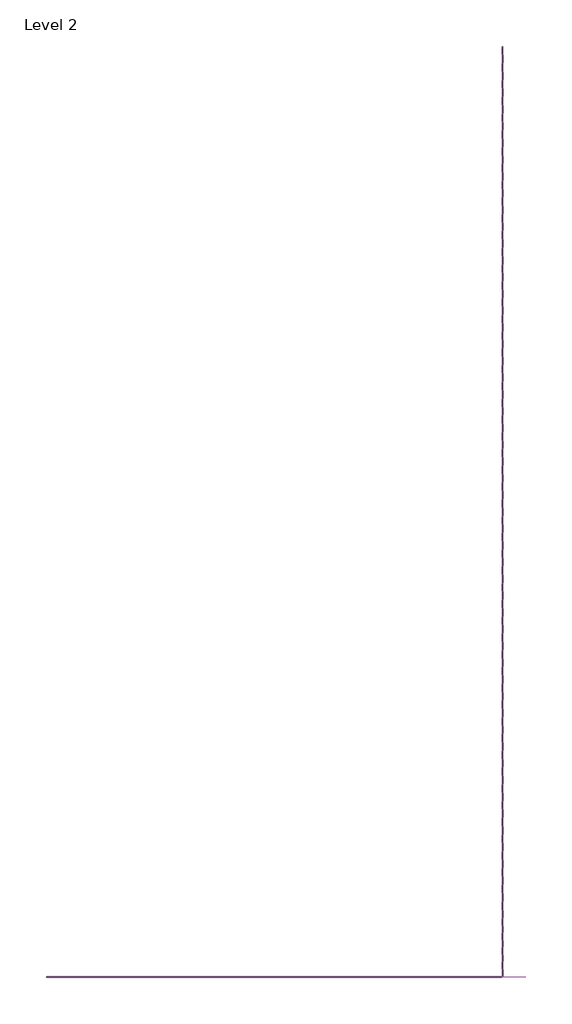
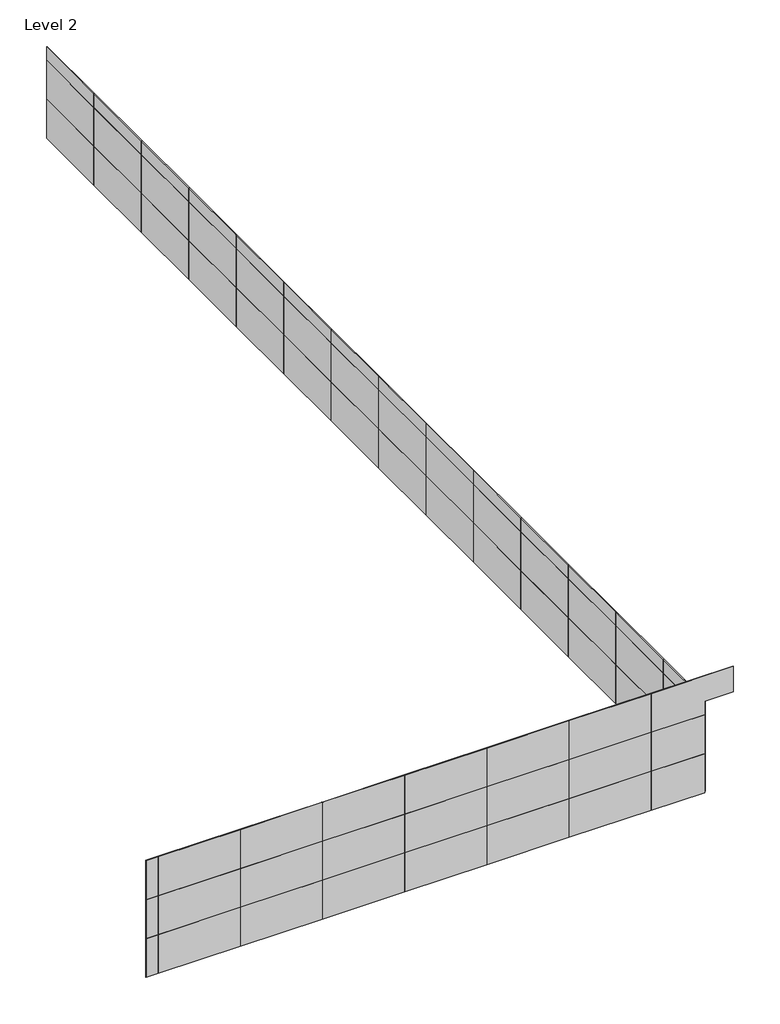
# One storey: 66 plates.
"""IFC4 building model written with IfcOpenShell, lengths in millimetres."""

import ifcopenshell
import ifcopenshell.guid

model = None  # the IFC model being written
_history = None  # IfcOwnerHistory: only IFC2X3 demands one
_inside = {}  # id of a spatial element -> (the spatial element, [elements in it])
_under = {}  # id of a project, library or spatial element -> (it, [spatial elements below it])
_declared = {}  # id of a project -> (the project, [libraries it declares])
_typed = {}  # id of a type object -> (the type object, [elements of that type])
_made_of = {}  # id of a material, layer set ... -> (it, [elements and type objects made of it])


def new_model(schema):
    """Start an empty IFC model of exactly this schema.

    Asked for "IFC4X3", IfcOpenShell would pick the latest addendum, in which some entities
    have other attributes; the version numbers below select the first issue.
    IFC2X3 requires an IfcOwnerHistory on every rooted entity: one is made here for all.
    """
    global model, _history
    if schema == "IFC4X3":
        model = ifcopenshell.file(schema_version=(4, 3, 0, 0))
    else:
        model = ifcopenshell.file(schema=schema)
    _inside.clear()
    _under.clear()
    _declared.clear()
    _typed.clear()
    _made_of.clear()
    _history = None
    if model.schema == "IFC2X3":
        org = make("IfcOrganization", Name="unknown")
        user = make(
            "IfcPersonAndOrganization",
            ThePerson=make("IfcPerson", FamilyName="unknown"),
            TheOrganization=org,
        )
        app = make(
            "IfcApplication",
            ApplicationDeveloper=org,
            Version="unknown",
            ApplicationFullName="unknown",
            ApplicationIdentifier="unknown",
        )
        _history = make(
            "IfcOwnerHistory",
            OwningUser=user,
            OwningApplication=app,
            ChangeAction="ADDED",
            CreationDate=0,
        )
    return model


def make(cls, **values):
    """One entity of the class cls with the attributes given. An attribute that is None is left unset."""
    return model.create_entity(
        cls, **{name: value for name, value in values.items() if value is not None}
    )


def rooted(cls, **values):
    """An entity with a GlobalId (a new one), such as an element, a storey or a relation."""
    return make(cls, GlobalId=ifcopenshell.guid.new(), OwnerHistory=_history, **values)


def si_unit(unit_type, name, prefix=None):
    """IfcSIUnit, for example si_unit("LENGTHUNIT", "METRE", prefix="MILLI")."""
    return make("IfcSIUnit", UnitType=unit_type, Prefix=prefix, Name=name)


def assignment(units):
    """IfcUnitAssignment: the units of a project."""
    return None if units is None else make("IfcUnitAssignment", Units=units)


def point(xyz):
    """IfcCartesianPoint."""
    return None if xyz is None else make("IfcCartesianPoint", Coordinates=xyz)


def direction(xyz):
    """IfcDirection."""
    return None if xyz is None else make("IfcDirection", DirectionRatios=xyz)


def frame(location, z_axis=None, x_axis=None):
    """IfcAxis2Placement3D, a coordinate frame: its origin and axes. An axis left out is left unset."""
    return make(
        "IfcAxis2Placement3D",
        Location=point(location),
        Axis=direction(z_axis),
        RefDirection=direction(x_axis),
    )


def origin():
    """The frame at (0, 0, 0) with its axes left unset."""
    return frame((0.0, 0.0, 0.0))


def origin_with_axes():
    """The frame at (0, 0, 0) with the z axis (0, 0, 1) and the x axis (1, 0, 0) written out."""
    return frame((0.0, 0.0, 0.0), z_axis=(0.0, 0.0, 1.0), x_axis=(1.0, 0.0, 0.0))


def place(relative_to, where):
    """IfcLocalPlacement: puts the frame where relative to a parent placement (None: the world)."""
    return make(
        "IfcLocalPlacement", PlacementRelTo=relative_to, RelativePlacement=where
    )


def context(
    kind, dimensions, precision=None, world=None, true_north=None, identifier=None
):
    """IfcGeometricRepresentationContext, for example the 3D "Model" context."""
    return make(
        "IfcGeometricRepresentationContext",
        ContextIdentifier=identifier,
        ContextType=kind,
        CoordinateSpaceDimension=dimensions,
        Precision=precision,
        WorldCoordinateSystem=world,
        TrueNorth=true_north,
    )


def project(units=None, contexts=None):
    """IfcProject with its units and contexts."""
    return rooted(
        "IfcProject",
        Name="project",
        RepresentationContexts=contexts,
        UnitsInContext=assignment(units),
    )


def spatial(cls, under=None, at=None, **own):
    """A site, building, storey or space (cls), placed at a placement, below another one or the project."""
    s = rooted(cls, ObjectPlacement=at, **own)
    if under is not None:
        _under.setdefault(under.id(), (under, []))[1].append(s)
    return s


def polyline(points):
    """IfcPolyline through the points."""
    return make("IfcPolyline", Points=[point(p) for p in points])


def outline(outer, holes=None, kind="AREA"):
    """IfcArbitraryClosedProfileDef: a profile drawn as a closed curve; with holes, ...WithVoids."""
    if holes is None:
        return make("IfcArbitraryClosedProfileDef", ProfileType=kind, OuterCurve=outer)
    return make(
        "IfcArbitraryProfileDefWithVoids",
        ProfileType=kind,
        OuterCurve=outer,
        InnerCurves=holes,
    )


def extrude(swept, where, along, depth):
    """IfcExtrudedAreaSolid: the profile swept, set in the frame where, extruded along a direction by depth."""
    return make(
        "IfcExtrudedAreaSolid",
        SweptArea=swept,
        Position=where,
        ExtrudedDirection=direction(along),
        Depth=depth,
    )


def shape(context_of_items, identifier, shape_type, items):
    """IfcShapeRepresentation: the items that make up one representation, for example the "Body"."""
    return make(
        "IfcShapeRepresentation",
        ContextOfItems=context_of_items,
        RepresentationIdentifier=identifier,
        RepresentationType=shape_type,
        Items=items,
    )


def source(mapping_origin, context_of_items, identifier, shape_type, items):
    """IfcRepresentationMap: a shape defined once, which mapped items show again and again."""
    return make(
        "IfcRepresentationMap",
        MappingOrigin=mapping_origin,
        MappedRepresentation=shape(context_of_items, identifier, shape_type, items),
    )


def transform(
    local_origin,
    x_axis=None,
    y_axis=None,
    z_axis=None,
    scale=None,
    scale2=None,
    scale3=None,
    uniform=True,
):
    """IfcCartesianTransformationOperator3D, or its non-uniform kind. x_axis, y_axis, z_axis: its Axis1, 2, 3."""
    if uniform:
        return make(
            "IfcCartesianTransformationOperator3D",
            Axis1=direction(x_axis),
            Axis2=direction(y_axis),
            LocalOrigin=point(local_origin),
            Scale=scale,
            Axis3=direction(z_axis),
        )
    return make(
        "IfcCartesianTransformationOperator3DnonUniform",
        Axis1=direction(x_axis),
        Axis2=direction(y_axis),
        LocalOrigin=point(local_origin),
        Scale=scale,
        Axis3=direction(z_axis),
        Scale2=scale2,
        Scale3=scale3,
    )


def mapped(mapping_source, mapping_target):
    """IfcMappedItem: shows the shape of a source again, moved by a transform."""
    return make(
        "IfcMappedItem", MappingSource=mapping_source, MappingTarget=mapping_target
    )


def made_of(thing, what):
    """Note that an element or type object is made of a material, layer set ...; save() writes the relation."""
    if what is not None:
        _made_of.setdefault(what.id(), (what, []))[1].append(thing)
    return thing


def element(
    cls,
    number,
    at=None,
    inside=None,
    cuts=None,
    type_object=None,
    material=None,
    context=None,
    identifier="Body",
    shape_type=None,
    held_by="IfcProductDefinitionShape",
    body=None,
    shapes=None,
    **own,
):
    """One element of the class cls, such as IfcWall. Its Tag is "e" and its number.

    at: its placement. inside: the storey or other place that contains it. cuts: it is an
    opening in that element (IfcRelVoidsElement). A single representation is given by context,
    identifier, shape_type and body (its items); several are given by shapes. held_by: the class
    of the entity that holds the representations. save() writes the other relations.
    """
    e = rooted(cls, Tag="e%d" % number, ObjectPlacement=at, **own)
    if body is not None:
        shapes = [shape(context, identifier, shape_type, body)]
    if shapes is not None:
        e.Representation = make(held_by, Representations=shapes)
    if inside is not None:
        _inside.setdefault(inside.id(), (inside, []))[1].append(e)
    if cuts is not None:
        rooted(
            "IfcRelVoidsElement", RelatingBuildingElement=cuts, RelatedOpeningElement=e
        )
    if type_object is not None:
        _typed.setdefault(type_object.id(), (type_object, []))[1].append(e)
    return made_of(e, material)


def aggregate(whole, parts):
    """IfcRelAggregates: a whole, such as a stair, and the parts it consists of."""
    return rooted("IfcRelAggregates", RelatingObject=whole, RelatedObjects=parts)


def save(model, path):
    """Write the relations noted so far, then the file.

    IfcRelAggregates (storeys below a building ...), IfcRelContainedInSpatialStructure (elements
    in a storey), IfcRelDefinesByType, IfcRelAssociatesMaterial and IfcRelDeclares: one each for
    every whole, place, type object, material and project.
    """
    for whole, parts in _under.values():
        aggregate(whole, parts)
    for where, things in _inside.values():
        rooted(
            "IfcRelContainedInSpatialStructure",
            RelatedElements=things,
            RelatingStructure=where,
        )
    for kind, things in _typed.values():
        rooted("IfcRelDefinesByType", RelatedObjects=things, RelatingType=kind)
    for what, things in _made_of.values():
        rooted("IfcRelAssociatesMaterial", RelatedObjects=things, RelatingMaterial=what)
    for by, libraries in _declared.values():
        rooted("IfcRelDeclares", RelatingContext=by, RelatedDefinitions=libraries)
    model.write(path)


def system_panel_glazed_81988b3c(model_context):
    return source(origin(), model_context, "Body", "SweptSolid", [
        extrude(outline(polyline([(990.6, 19.05), (-990.6, 19.05), (-990.6, 44.45), (990.6, 44.45), (990.6, 19.05)])), origin_with_axes(), (0.0, 0.0, 1.0), 1524.0),
    ])


def system_panel_glazed_0faff7bc(model_context):
    return source(origin(), model_context, "Body", "SweptSolid", [
        extrude(outline(polyline([(1524.0, 19.05), (-1524.0, 19.05), (-1524.0, 44.45), (1524.0, 44.45), (1524.0, 19.05)])), origin_with_axes(), (0.0, 0.0, 1.0), 1524.0),
    ])


def system_panel_glazed_3beef6a9(model_context):
    return source(origin(), model_context, "Body", "SweptSolid", [
        extrude(outline(polyline([(222.6119514, 19.05), (-222.6119514, 19.05), (-222.6119514, 44.45), (222.6119514, 44.45), (222.6119514, 19.05)])), origin_with_axes(), (0.0, 0.0, 1.0), 1524.0),
    ])


def system_panel_glazed_c471499d(model_context):
    return source(origin(), model_context, "Body", "SweptSolid", [
        extrude(outline(polyline([(0.0, -457.2), (0.0, 1524.0), (1524.0, 1524.0), (1524.0, -1524.0), (533.0898546, -1524.0), (533.0898546, -457.2), (0.0, -457.2)])), frame((0.0, 19.05, 0.0), z_axis=(0.0, 1.0, 0.0), x_axis=(0.0, 0.0, 1.0)), (0.0, 0.0, 1.0), 25.4),
    ])


def system_panel_glazed_27cb410f(model_context):
    return source(origin(), model_context, "Body", "SweptSolid", [
        extrude(outline(polyline([(1319.7377931, 19.05), (-1319.7377931, 19.05), (-1319.7377931, 44.45), (1319.7377931, 44.45), (1319.7377931, 19.05)])), origin_with_axes(), (0.0, 0.0, 1.0), 1524.0),
    ])


def system_panel_glazed_37bbd643(model_context):
    return source(origin(), model_context, "Body", "SweptSolid", [
        extrude(outline(polyline([(1524.0, 19.05), (-1524.0, 19.05), (-1524.0, 44.45), (1524.0, 44.45), (1524.0, 19.05)])), origin_with_axes(), (0.0, 0.0, 1.0), 533.0898546),
    ])


def system_panel_glazed_967a94bb(model_context):
    return source(origin(), model_context, "Body", "SweptSolid", [
        extrude(outline(polyline([(1319.7377931, 19.05), (-1319.7377931, 19.05), (-1319.7377931, 44.45), (1319.7377931, 44.45), (1319.7377931, 19.05)])), origin_with_axes(), (0.0, 0.0, 1.0), 533.0898546),
    ])


model = new_model("IFC4")

# Units and contexts
model_context = context("Model", 3, world=origin())
ifc_project = project(units=[si_unit("LENGTHUNIT", "METRE", prefix="MILLI")], contexts=[model_context])

# Site, building, storey
site = spatial("IfcSite", under=ifc_project)
building = spatial("IfcBuilding", under=site)
storey = spatial("IfcBuildingStorey", under=building, Name="Level 2", Elevation=3048.0)

# Plates
placement = place(None, origin())
system_panel_glazed_shape = system_panel_glazed_81988b3c(model_context)
element("IfcPlate", 1, ObjectType="System Panel : Glazed", at=placement, inside=storey, context=model_context, shape_type="MappedRepresentation", body=[
    mapped(system_panel_glazed_shape, transform((2142.6832196, -17542.9691989, 3136.4959124), x_axis=(-1.0, 0.0, 0.0), y_axis=(0.0, -1.0, 0.0), z_axis=(0.0, 0.0, 1.0))),
])
element("IfcPlate", 2, ObjectType="System Panel : Glazed", at=placement, inside=storey, context=model_context, shape_type="MappedRepresentation", body=[
    mapped(system_panel_glazed_shape, transform((2142.6832196, -17542.9691989, 4660.4959124), x_axis=(-1.0, 0.0, 0.0), y_axis=(0.0, -1.0, 0.0), z_axis=(0.0, 0.0, 1.0))),
])
system_panel_glazed_2_shape = system_panel_glazed_0faff7bc(model_context)
element("IfcPlate", 3, ObjectType="System Panel : Glazed", at=placement, inside=storey, context=model_context, shape_type="MappedRepresentation", body=[
    mapped(system_panel_glazed_2_shape, transform((-371.9167804, -17542.9691989, 3136.4959124), x_axis=(-1.0, 0.0, 0.0), y_axis=(0.0, -1.0, 0.0), z_axis=(0.0, 0.0, 1.0))),
])
element("IfcPlate", 4, ObjectType="System Panel : Glazed", at=placement, inside=storey, context=model_context, shape_type="MappedRepresentation", body=[
    mapped(system_panel_glazed_2_shape, transform((-3419.9167804, -17542.9691989, 3136.4959124), x_axis=(-1.0, 0.0, 0.0), y_axis=(0.0, -1.0, 0.0), z_axis=(0.0, 0.0, 1.0))),
])
element("IfcPlate", 5, ObjectType="System Panel : Glazed", at=placement, inside=storey, context=model_context, shape_type="MappedRepresentation", body=[
    mapped(system_panel_glazed_2_shape, transform((-6467.9167804, -17542.9691989, 3136.4959124), x_axis=(-1.0, 0.0, 0.0), y_axis=(0.0, -1.0, 0.0), z_axis=(0.0, 0.0, 1.0))),
])
element("IfcPlate", 6, ObjectType="System Panel : Glazed", at=placement, inside=storey, context=model_context, shape_type="MappedRepresentation", body=[
    mapped(system_panel_glazed_2_shape, transform((-9515.9167804, -17542.9691989, 3136.4959124), x_axis=(-1.0, 0.0, 0.0), y_axis=(0.0, -1.0, 0.0), z_axis=(0.0, 0.0, 1.0))),
])
element("IfcPlate", 7, ObjectType="System Panel : Glazed", at=placement, inside=storey, context=model_context, shape_type="MappedRepresentation", body=[
    mapped(system_panel_glazed_2_shape, transform((-12563.9167804, -17542.9691989, 3136.4959124), x_axis=(-1.0, 0.0, 0.0), y_axis=(0.0, -1.0, 0.0), z_axis=(0.0, 0.0, 1.0))),
])
element("IfcPlate", 8, ObjectType="System Panel : Glazed", at=placement, inside=storey, context=model_context, shape_type="MappedRepresentation", body=[
    mapped(system_panel_glazed_2_shape, transform((-15611.9167804, -17542.9691989, 3136.4959124), x_axis=(-1.0, 0.0, 0.0), y_axis=(0.0, -1.0, 0.0), z_axis=(0.0, 0.0, 1.0))),
])
element("IfcPlate", 9, ObjectType="System Panel : Glazed", at=placement, inside=storey, context=model_context, shape_type="MappedRepresentation", body=[
    mapped(system_panel_glazed_2_shape, transform((-371.9167804, -17542.9691989, 4660.4959124), x_axis=(-1.0, 0.0, 0.0), y_axis=(0.0, -1.0, 0.0), z_axis=(0.0, 0.0, 1.0))),
])
element("IfcPlate", 10, ObjectType="System Panel : Glazed", at=placement, inside=storey, context=model_context, shape_type="MappedRepresentation", body=[
    mapped(system_panel_glazed_2_shape, transform((-3419.9167804, -17542.9691989, 4660.4959124), x_axis=(-1.0, 0.0, 0.0), y_axis=(0.0, -1.0, 0.0), z_axis=(0.0, 0.0, 1.0))),
])
element("IfcPlate", 11, ObjectType="System Panel : Glazed", at=placement, inside=storey, context=model_context, shape_type="MappedRepresentation", body=[
    mapped(system_panel_glazed_2_shape, transform((-6467.9167804, -17542.9691989, 4660.4959124), x_axis=(-1.0, 0.0, 0.0), y_axis=(0.0, -1.0, 0.0), z_axis=(0.0, 0.0, 1.0))),
])
element("IfcPlate", 12, ObjectType="System Panel : Glazed", at=placement, inside=storey, context=model_context, shape_type="MappedRepresentation", body=[
    mapped(system_panel_glazed_2_shape, transform((-9515.9167804, -17542.9691989, 4660.4959124), x_axis=(-1.0, 0.0, 0.0), y_axis=(0.0, -1.0, 0.0), z_axis=(0.0, 0.0, 1.0))),
])
element("IfcPlate", 13, ObjectType="System Panel : Glazed", at=placement, inside=storey, context=model_context, shape_type="MappedRepresentation", body=[
    mapped(system_panel_glazed_2_shape, transform((-12563.9167804, -17542.9691989, 4660.4959124), x_axis=(-1.0, 0.0, 0.0), y_axis=(0.0, -1.0, 0.0), z_axis=(0.0, 0.0, 1.0))),
])
element("IfcPlate", 14, ObjectType="System Panel : Glazed", at=placement, inside=storey, context=model_context, shape_type="MappedRepresentation", body=[
    mapped(system_panel_glazed_2_shape, transform((-15611.9167804, -17542.9691989, 4660.4959124), x_axis=(-1.0, 0.0, 0.0), y_axis=(0.0, -1.0, 0.0), z_axis=(0.0, 0.0, 1.0))),
])
element("IfcPlate", 15, ObjectType="System Panel : Glazed", at=placement, inside=storey, context=model_context, shape_type="MappedRepresentation", body=[
    mapped(system_panel_glazed_2_shape, transform((-371.9167804, -17542.9691989, 6184.4959124), x_axis=(-1.0, 0.0, 0.0), y_axis=(0.0, -1.0, 0.0), z_axis=(0.0, 0.0, 1.0))),
])
element("IfcPlate", 16, ObjectType="System Panel : Glazed", at=placement, inside=storey, context=model_context, shape_type="MappedRepresentation", body=[
    mapped(system_panel_glazed_2_shape, transform((-3419.9167804, -17542.9691989, 6184.4959124), x_axis=(-1.0, 0.0, 0.0), y_axis=(0.0, -1.0, 0.0), z_axis=(0.0, 0.0, 1.0))),
])
element("IfcPlate", 17, ObjectType="System Panel : Glazed", at=placement, inside=storey, context=model_context, shape_type="MappedRepresentation", body=[
    mapped(system_panel_glazed_2_shape, transform((-6467.9167804, -17542.9691989, 6184.4959124), x_axis=(-1.0, 0.0, 0.0), y_axis=(0.0, -1.0, 0.0), z_axis=(0.0, 0.0, 1.0))),
])
element("IfcPlate", 18, ObjectType="System Panel : Glazed", at=placement, inside=storey, context=model_context, shape_type="MappedRepresentation", body=[
    mapped(system_panel_glazed_2_shape, transform((-9515.9167804, -17542.9691989, 6184.4959124), x_axis=(-1.0, 0.0, 0.0), y_axis=(0.0, -1.0, 0.0), z_axis=(0.0, 0.0, 1.0))),
])
element("IfcPlate", 19, ObjectType="System Panel : Glazed", at=placement, inside=storey, context=model_context, shape_type="MappedRepresentation", body=[
    mapped(system_panel_glazed_2_shape, transform((-12563.9167804, -17542.9691989, 6184.4959124), x_axis=(-1.0, 0.0, 0.0), y_axis=(0.0, -1.0, 0.0), z_axis=(0.0, 0.0, 1.0))),
])
element("IfcPlate", 20, ObjectType="System Panel : Glazed", at=placement, inside=storey, context=model_context, shape_type="MappedRepresentation", body=[
    mapped(system_panel_glazed_2_shape, transform((-15611.9167804, -17542.9691989, 6184.4959124), x_axis=(-1.0, 0.0, 0.0), y_axis=(0.0, -1.0, 0.0), z_axis=(0.0, 0.0, 1.0))),
])
element("IfcPlate", 21, ObjectType="System Panel : Glazed", at=placement, inside=storey, context=model_context, shape_type="MappedRepresentation", body=[
    mapped(system_panel_glazed_2_shape, transform((3133.2832196, 23196.5063873, 3136.4959124), x_axis=(0.0, -1.0, 0.0), y_axis=(1.0, 0.0, 0.0), z_axis=(0.0, 0.0, 1.0))),
])
element("IfcPlate", 22, ObjectType="System Panel : Glazed", at=placement, inside=storey, context=model_context, shape_type="MappedRepresentation", body=[
    mapped(system_panel_glazed_2_shape, transform((3133.2832196, 20148.5063873, 3136.4959124), x_axis=(0.0, -1.0, 0.0), y_axis=(1.0, 0.0, 0.0), z_axis=(0.0, 0.0, 1.0))),
])
element("IfcPlate", 23, ObjectType="System Panel : Glazed", at=placement, inside=storey, context=model_context, shape_type="MappedRepresentation", body=[
    mapped(system_panel_glazed_2_shape, transform((3133.2832196, 17100.5063873, 3136.4959124), x_axis=(0.0, -1.0, 0.0), y_axis=(1.0, 0.0, 0.0), z_axis=(0.0, 0.0, 1.0))),
])
element("IfcPlate", 24, ObjectType="System Panel : Glazed", at=placement, inside=storey, context=model_context, shape_type="MappedRepresentation", body=[
    mapped(system_panel_glazed_2_shape, transform((3133.2832196, 14052.5063873, 3136.4959124), x_axis=(0.0, -1.0, 0.0), y_axis=(1.0, 0.0, 0.0), z_axis=(0.0, 0.0, 1.0))),
])
element("IfcPlate", 25, ObjectType="System Panel : Glazed", at=placement, inside=storey, context=model_context, shape_type="MappedRepresentation", body=[
    mapped(system_panel_glazed_2_shape, transform((3133.2832196, 11004.5063873, 3136.4959124), x_axis=(0.0, -1.0, 0.0), y_axis=(1.0, 0.0, 0.0), z_axis=(0.0, 0.0, 1.0))),
])
element("IfcPlate", 26, ObjectType="System Panel : Glazed", at=placement, inside=storey, context=model_context, shape_type="MappedRepresentation", body=[
    mapped(system_panel_glazed_2_shape, transform((3133.2832196, 7956.5063873, 3136.4959124), x_axis=(0.0, -1.0, 0.0), y_axis=(1.0, 0.0, 0.0), z_axis=(0.0, 0.0, 1.0))),
])
element("IfcPlate", 27, ObjectType="System Panel : Glazed", at=placement, inside=storey, context=model_context, shape_type="MappedRepresentation", body=[
    mapped(system_panel_glazed_2_shape, transform((3133.2832196, 4908.5063873, 3136.4959124), x_axis=(0.0, -1.0, 0.0), y_axis=(1.0, 0.0, 0.0), z_axis=(0.0, 0.0, 1.0))),
])
element("IfcPlate", 28, ObjectType="System Panel : Glazed", at=placement, inside=storey, context=model_context, shape_type="MappedRepresentation", body=[
    mapped(system_panel_glazed_2_shape, transform((3133.2832196, 1860.5063873, 3136.4959124), x_axis=(0.0, -1.0, 0.0), y_axis=(1.0, 0.0, 0.0), z_axis=(0.0, 0.0, 1.0))),
])
element("IfcPlate", 29, ObjectType="System Panel : Glazed", at=placement, inside=storey, context=model_context, shape_type="MappedRepresentation", body=[
    mapped(system_panel_glazed_2_shape, transform((3133.2832196, -1187.4936127, 3136.4959124), x_axis=(0.0, -1.0, 0.0), y_axis=(1.0, 0.0, 0.0), z_axis=(0.0, 0.0, 1.0))),
])
element("IfcPlate", 30, ObjectType="System Panel : Glazed", at=placement, inside=storey, context=model_context, shape_type="MappedRepresentation", body=[
    mapped(system_panel_glazed_2_shape, transform((3133.2832196, -4235.4936127, 3136.4959124), x_axis=(0.0, -1.0, 0.0), y_axis=(1.0, 0.0, 0.0), z_axis=(0.0, 0.0, 1.0))),
])
element("IfcPlate", 31, ObjectType="System Panel : Glazed", at=placement, inside=storey, context=model_context, shape_type="MappedRepresentation", body=[
    mapped(system_panel_glazed_2_shape, transform((3133.2832196, -7283.4936127, 3136.4959124), x_axis=(0.0, -1.0, 0.0), y_axis=(1.0, 0.0, 0.0), z_axis=(0.0, 0.0, 1.0))),
])
element("IfcPlate", 32, ObjectType="System Panel : Glazed", at=placement, inside=storey, context=model_context, shape_type="MappedRepresentation", body=[
    mapped(system_panel_glazed_2_shape, transform((3133.2832196, -10331.4936127, 3136.4959124), x_axis=(0.0, -1.0, 0.0), y_axis=(1.0, 0.0, 0.0), z_axis=(0.0, 0.0, 1.0))),
])
element("IfcPlate", 33, ObjectType="System Panel : Glazed", at=placement, inside=storey, context=model_context, shape_type="MappedRepresentation", body=[
    mapped(system_panel_glazed_2_shape, transform((3133.2832196, -13379.4936127, 3136.4959124), x_axis=(0.0, -1.0, 0.0), y_axis=(1.0, 0.0, 0.0), z_axis=(0.0, 0.0, 1.0))),
])
element("IfcPlate", 34, ObjectType="System Panel : Glazed", at=placement, inside=storey, context=model_context, shape_type="MappedRepresentation", body=[
    mapped(system_panel_glazed_2_shape, transform((3133.2832196, 23196.5063873, 4660.4959124), x_axis=(0.0, -1.0, 0.0), y_axis=(1.0, 0.0, 0.0), z_axis=(0.0, 0.0, 1.0))),
])
element("IfcPlate", 35, ObjectType="System Panel : Glazed", at=placement, inside=storey, context=model_context, shape_type="MappedRepresentation", body=[
    mapped(system_panel_glazed_2_shape, transform((3133.2832196, 20148.5063873, 4660.4959124), x_axis=(0.0, -1.0, 0.0), y_axis=(1.0, 0.0, 0.0), z_axis=(0.0, 0.0, 1.0))),
])
element("IfcPlate", 36, ObjectType="System Panel : Glazed", at=placement, inside=storey, context=model_context, shape_type="MappedRepresentation", body=[
    mapped(system_panel_glazed_2_shape, transform((3133.2832196, 17100.5063873, 4660.4959124), x_axis=(0.0, -1.0, 0.0), y_axis=(1.0, 0.0, 0.0), z_axis=(0.0, 0.0, 1.0))),
])
element("IfcPlate", 37, ObjectType="System Panel : Glazed", at=placement, inside=storey, context=model_context, shape_type="MappedRepresentation", body=[
    mapped(system_panel_glazed_2_shape, transform((3133.2832196, 14052.5063873, 4660.4959124), x_axis=(0.0, -1.0, 0.0), y_axis=(1.0, 0.0, 0.0), z_axis=(0.0, 0.0, 1.0))),
])
element("IfcPlate", 38, ObjectType="System Panel : Glazed", at=placement, inside=storey, context=model_context, shape_type="MappedRepresentation", body=[
    mapped(system_panel_glazed_2_shape, transform((3133.2832196, 11004.5063873, 4660.4959124), x_axis=(0.0, -1.0, 0.0), y_axis=(1.0, 0.0, 0.0), z_axis=(0.0, 0.0, 1.0))),
])
element("IfcPlate", 39, ObjectType="System Panel : Glazed", at=placement, inside=storey, context=model_context, shape_type="MappedRepresentation", body=[
    mapped(system_panel_glazed_2_shape, transform((3133.2832196, 7956.5063873, 4660.4959124), x_axis=(0.0, -1.0, 0.0), y_axis=(1.0, 0.0, 0.0), z_axis=(0.0, 0.0, 1.0))),
])
element("IfcPlate", 40, ObjectType="System Panel : Glazed", at=placement, inside=storey, context=model_context, shape_type="MappedRepresentation", body=[
    mapped(system_panel_glazed_2_shape, transform((3133.2832196, 4908.5063873, 4660.4959124), x_axis=(0.0, -1.0, 0.0), y_axis=(1.0, 0.0, 0.0), z_axis=(0.0, 0.0, 1.0))),
])
element("IfcPlate", 41, ObjectType="System Panel : Glazed", at=placement, inside=storey, context=model_context, shape_type="MappedRepresentation", body=[
    mapped(system_panel_glazed_2_shape, transform((3133.2832196, 1860.5063873, 4660.4959124), x_axis=(0.0, -1.0, 0.0), y_axis=(1.0, 0.0, 0.0), z_axis=(0.0, 0.0, 1.0))),
])
element("IfcPlate", 42, ObjectType="System Panel : Glazed", at=placement, inside=storey, context=model_context, shape_type="MappedRepresentation", body=[
    mapped(system_panel_glazed_2_shape, transform((3133.2832196, -1187.4936127, 4660.4959124), x_axis=(0.0, -1.0, 0.0), y_axis=(1.0, 0.0, 0.0), z_axis=(0.0, 0.0, 1.0))),
])
element("IfcPlate", 43, ObjectType="System Panel : Glazed", at=placement, inside=storey, context=model_context, shape_type="MappedRepresentation", body=[
    mapped(system_panel_glazed_2_shape, transform((3133.2832196, -4235.4936127, 4660.4959124), x_axis=(0.0, -1.0, 0.0), y_axis=(1.0, 0.0, 0.0), z_axis=(0.0, 0.0, 1.0))),
])
element("IfcPlate", 44, ObjectType="System Panel : Glazed", at=placement, inside=storey, context=model_context, shape_type="MappedRepresentation", body=[
    mapped(system_panel_glazed_2_shape, transform((3133.2832196, -7283.4936127, 4660.4959124), x_axis=(0.0, -1.0, 0.0), y_axis=(1.0, 0.0, 0.0), z_axis=(0.0, 0.0, 1.0))),
])
element("IfcPlate", 45, ObjectType="System Panel : Glazed", at=placement, inside=storey, context=model_context, shape_type="MappedRepresentation", body=[
    mapped(system_panel_glazed_2_shape, transform((3133.2832196, -10331.4936127, 4660.4959124), x_axis=(0.0, -1.0, 0.0), y_axis=(1.0, 0.0, 0.0), z_axis=(0.0, 0.0, 1.0))),
])
element("IfcPlate", 46, ObjectType="System Panel : Glazed", at=placement, inside=storey, context=model_context, shape_type="MappedRepresentation", body=[
    mapped(system_panel_glazed_2_shape, transform((3133.2832196, -13379.4936127, 4660.4959124), x_axis=(0.0, -1.0, 0.0), y_axis=(1.0, 0.0, 0.0), z_axis=(0.0, 0.0, 1.0))),
])
system_panel_glazed_3_shape = system_panel_glazed_3beef6a9(model_context)
element("IfcPlate", 47, ObjectType="System Panel : Glazed", at=placement, inside=storey, context=model_context, shape_type="MappedRepresentation", body=[
    mapped(system_panel_glazed_3_shape, transform((-17358.5287318, -17542.9691989, 3136.4959124), x_axis=(-1.0, 0.0, 0.0), y_axis=(0.0, -1.0, 0.0), z_axis=(0.0, 0.0, 1.0))),
])
element("IfcPlate", 48, ObjectType="System Panel : Glazed", at=placement, inside=storey, context=model_context, shape_type="MappedRepresentation", body=[
    mapped(system_panel_glazed_3_shape, transform((-17358.5287318, -17542.9691989, 4660.4959124), x_axis=(-1.0, 0.0, 0.0), y_axis=(0.0, -1.0, 0.0), z_axis=(0.0, 0.0, 1.0))),
])
element("IfcPlate", 49, ObjectType="System Panel : Glazed", at=placement, inside=storey, context=model_context, shape_type="MappedRepresentation", body=[
    mapped(system_panel_glazed_3_shape, transform((-17358.5287318, -17542.9691989, 6184.4959124), x_axis=(-1.0, 0.0, 0.0), y_axis=(0.0, -1.0, 0.0), z_axis=(0.0, 0.0, 1.0))),
])
system_panel_glazed_4_shape = system_panel_glazed_c471499d(model_context)
element("IfcPlate", 50, ObjectType="System Panel : Glazed", at=placement, inside=storey, context=model_context, shape_type="MappedRepresentation", body=[
    mapped(system_panel_glazed_4_shape, transform((2676.0832196, -17542.9691989, 6184.4959124), x_axis=(-1.0, 0.0, 0.0), y_axis=(0.0, -1.0, 0.0), z_axis=(0.0, 0.0, 1.0))),
])
system_panel_glazed_5_shape = system_panel_glazed_27cb410f(model_context)
element("IfcPlate", 51, ObjectType="System Panel : Glazed", at=placement, inside=storey, context=model_context, shape_type="MappedRepresentation", body=[
    mapped(system_panel_glazed_5_shape, transform((3133.2832196, -16223.2314058, 3136.4959124), x_axis=(0.0, -1.0, 0.0), y_axis=(1.0, 0.0, 0.0), z_axis=(0.0, 0.0, 1.0))),
])
element("IfcPlate", 52, ObjectType="System Panel : Glazed", at=placement, inside=storey, context=model_context, shape_type="MappedRepresentation", body=[
    mapped(system_panel_glazed_5_shape, transform((3133.2832196, -16223.2314058, 4660.4959124), x_axis=(0.0, -1.0, 0.0), y_axis=(1.0, 0.0, 0.0), z_axis=(0.0, 0.0, 1.0))),
])
system_panel_glazed_6_shape = system_panel_glazed_37bbd643(model_context)
element("IfcPlate", 53, ObjectType="System Panel : Glazed", at=placement, inside=storey, context=model_context, shape_type="MappedRepresentation", body=[
    mapped(system_panel_glazed_6_shape, transform((3133.2832196, 23196.5063873, 6184.4959124), x_axis=(0.0, -1.0, 0.0), y_axis=(1.0, 0.0, 0.0), z_axis=(0.0, 0.0, 1.0))),
])
element("IfcPlate", 54, ObjectType="System Panel : Glazed", at=placement, inside=storey, context=model_context, shape_type="MappedRepresentation", body=[
    mapped(system_panel_glazed_6_shape, transform((3133.2832196, 20148.5063873, 6184.4959124), x_axis=(0.0, -1.0, 0.0), y_axis=(1.0, 0.0, 0.0), z_axis=(0.0, 0.0, 1.0))),
])
element("IfcPlate", 55, ObjectType="System Panel : Glazed", at=placement, inside=storey, context=model_context, shape_type="MappedRepresentation", body=[
    mapped(system_panel_glazed_6_shape, transform((3133.2832196, 17100.5063873, 6184.4959124), x_axis=(0.0, -1.0, 0.0), y_axis=(1.0, 0.0, 0.0), z_axis=(0.0, 0.0, 1.0))),
])
element("IfcPlate", 56, ObjectType="System Panel : Glazed", at=placement, inside=storey, context=model_context, shape_type="MappedRepresentation", body=[
    mapped(system_panel_glazed_6_shape, transform((3133.2832196, 14052.5063873, 6184.4959124), x_axis=(0.0, -1.0, 0.0), y_axis=(1.0, 0.0, 0.0), z_axis=(0.0, 0.0, 1.0))),
])
element("IfcPlate", 57, ObjectType="System Panel : Glazed", at=placement, inside=storey, context=model_context, shape_type="MappedRepresentation", body=[
    mapped(system_panel_glazed_6_shape, transform((3133.2832196, 11004.5063873, 6184.4959124), x_axis=(0.0, -1.0, 0.0), y_axis=(1.0, 0.0, 0.0), z_axis=(0.0, 0.0, 1.0))),
])
element("IfcPlate", 58, ObjectType="System Panel : Glazed", at=placement, inside=storey, context=model_context, shape_type="MappedRepresentation", body=[
    mapped(system_panel_glazed_6_shape, transform((3133.2832196, 7956.5063873, 6184.4959124), x_axis=(0.0, -1.0, 0.0), y_axis=(1.0, 0.0, 0.0), z_axis=(0.0, 0.0, 1.0))),
])
element("IfcPlate", 59, ObjectType="System Panel : Glazed", at=placement, inside=storey, context=model_context, shape_type="MappedRepresentation", body=[
    mapped(system_panel_glazed_6_shape, transform((3133.2832196, 4908.5063873, 6184.4959124), x_axis=(0.0, -1.0, 0.0), y_axis=(1.0, 0.0, 0.0), z_axis=(0.0, 0.0, 1.0))),
])
element("IfcPlate", 60, ObjectType="System Panel : Glazed", at=placement, inside=storey, context=model_context, shape_type="MappedRepresentation", body=[
    mapped(system_panel_glazed_6_shape, transform((3133.2832196, 1860.5063873, 6184.4959124), x_axis=(0.0, -1.0, 0.0), y_axis=(1.0, 0.0, 0.0), z_axis=(0.0, 0.0, 1.0))),
])
element("IfcPlate", 61, ObjectType="System Panel : Glazed", at=placement, inside=storey, context=model_context, shape_type="MappedRepresentation", body=[
    mapped(system_panel_glazed_6_shape, transform((3133.2832196, -1187.4936127, 6184.4959124), x_axis=(0.0, -1.0, 0.0), y_axis=(1.0, 0.0, 0.0), z_axis=(0.0, 0.0, 1.0))),
])
element("IfcPlate", 62, ObjectType="System Panel : Glazed", at=placement, inside=storey, context=model_context, shape_type="MappedRepresentation", body=[
    mapped(system_panel_glazed_6_shape, transform((3133.2832196, -4235.4936127, 6184.4959124), x_axis=(0.0, -1.0, 0.0), y_axis=(1.0, 0.0, 0.0), z_axis=(0.0, 0.0, 1.0))),
])
element("IfcPlate", 63, ObjectType="System Panel : Glazed", at=placement, inside=storey, context=model_context, shape_type="MappedRepresentation", body=[
    mapped(system_panel_glazed_6_shape, transform((3133.2832196, -7283.4936127, 6184.4959124), x_axis=(0.0, -1.0, 0.0), y_axis=(1.0, 0.0, 0.0), z_axis=(0.0, 0.0, 1.0))),
])
element("IfcPlate", 64, ObjectType="System Panel : Glazed", at=placement, inside=storey, context=model_context, shape_type="MappedRepresentation", body=[
    mapped(system_panel_glazed_6_shape, transform((3133.2832196, -10331.4936127, 6184.4959124), x_axis=(0.0, -1.0, 0.0), y_axis=(1.0, 0.0, 0.0), z_axis=(0.0, 0.0, 1.0))),
])
element("IfcPlate", 65, ObjectType="System Panel : Glazed", at=placement, inside=storey, context=model_context, shape_type="MappedRepresentation", body=[
    mapped(system_panel_glazed_6_shape, transform((3133.2832196, -13379.4936127, 6184.4959124), x_axis=(0.0, -1.0, 0.0), y_axis=(1.0, 0.0, 0.0), z_axis=(0.0, 0.0, 1.0))),
])
system_panel_glazed_7_shape = system_panel_glazed_967a94bb(model_context)
element("IfcPlate", 66, ObjectType="System Panel : Glazed", at=placement, inside=storey, context=model_context, shape_type="MappedRepresentation", body=[
    mapped(system_panel_glazed_7_shape, transform((3133.2832196, -16223.2314058, 6184.4959124), x_axis=(0.0, -1.0, 0.0), y_axis=(1.0, 0.0, 0.0), z_axis=(0.0, 0.0, 1.0))),
])

save(model, "model.ifc")
